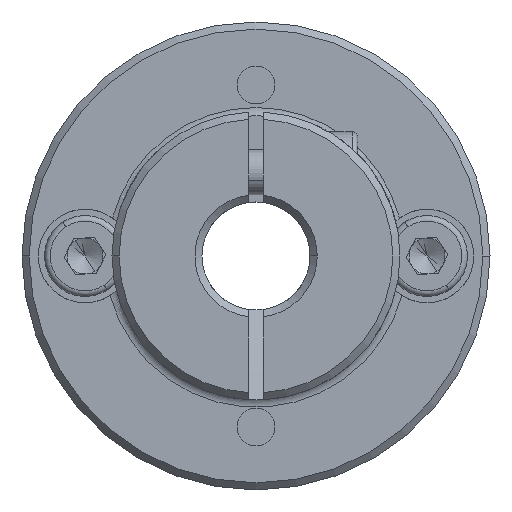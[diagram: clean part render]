
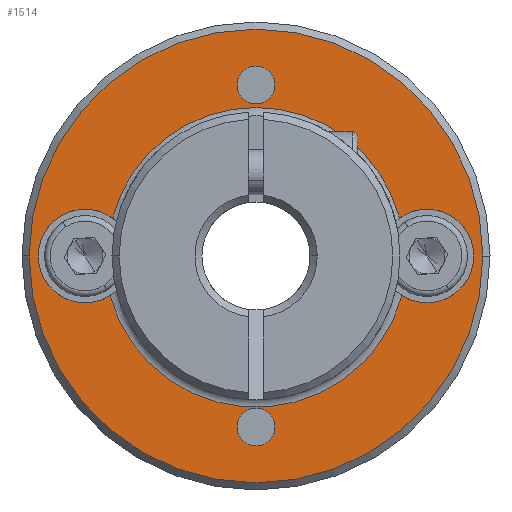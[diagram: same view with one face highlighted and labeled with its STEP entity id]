
A CAD part, front view. The second image highlights one B-rep face of the part: STEP entity #1514.
In plain terms, the highlighted planar face has unit normal (0, -1, 0).
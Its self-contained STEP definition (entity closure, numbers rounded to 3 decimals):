
#164 = ORIENTED_EDGE ( 'NONE', *, *, #2819, .T. ) ;
#249 = CARTESIAN_POINT ( 'NONE',  ( 4.944, -8.355, 28.105 ) ) ;
#271 = EDGE_CURVE ( 'NONE', #9428, #3634, #14770, .T. ) ;
#643 = CARTESIAN_POINT ( 'NONE',  ( -1.98, -8.355, 35.5 ) ) ;
#738 = CARTESIAN_POINT ( 'NONE',  ( -11.004, -8.355, 28.105 ) ) ;
#848 = CIRCLE ( 'NONE', #3548, 1.05 ) ;
#890 = PLANE ( 'NONE',  #14935 ) ;
#1066 = EDGE_CURVE ( 'NONE', #6877, #16805, #16623, .T. ) ;
#1163 = ORIENTED_EDGE ( 'NONE', *, *, #2679, .T. ) ;
#1514 = ADVANCED_FACE ( 'NONE', ( #4152, #16344, #8337, #8800 ), #890, .T. ) ;
#1959 = CIRCLE ( 'NONE', #18008, 2.6 ) ;
#2061 = VERTEX_POINT ( 'NONE', #11788 ) ;
#2112 = CARTESIAN_POINT ( 'NONE',  ( -15.63, -8.355, 26. ) ) ;
#2140 = DIRECTION ( 'NONE',  ( 0., -1., 0. ) ) ;
#2145 = DIRECTION ( 'NONE',  ( 0., -1., 0. ) ) ;
#2208 = EDGE_CURVE ( 'NONE', #3634, #14958, #16825, .T. ) ;
#2249 = DIRECTION ( 'NONE',  ( 0., 1., 0. ) ) ;
#2270 = CIRCLE ( 'NONE', #16720, 1.05 ) ;
#2679 = EDGE_CURVE ( 'NONE', #8132, #10151, #13047, .T. ) ;
#2819 = EDGE_CURVE ( 'NONE', #16805, #6877, #2270, .T. ) ;
#2860 = EDGE_CURVE ( 'NONE', #14958, #14154, #14003, .T. ) ;
#3179 = AXIS2_PLACEMENT_3D ( 'NONE', #11077, #2249, #18613 ) ;
#3272 = VERTEX_POINT ( 'NONE', #4988 ) ;
#3501 = DIRECTION ( 'NONE',  ( 0., 1., 0. ) ) ;
#3533 = EDGE_CURVE ( 'NONE', #12225, #2061, #17248, .T. ) ;
#3540 = EDGE_CURVE ( 'NONE', #3272, #13268, #848, .T. ) ;
#3548 = AXIS2_PLACEMENT_3D ( 'NONE', #18755, #3501, #18692 ) ;
#3634 = VERTEX_POINT ( 'NONE', #8003 ) ;
#3635 = DIRECTION ( 'NONE',  ( 1., 0., 0. ) ) ;
#3701 = CARTESIAN_POINT ( 'NONE',  ( 6.47, -8.355, 26. ) ) ;
#3760 = ORIENTED_EDGE ( 'NONE', *, *, #2208, .T. ) ;
#3897 = DIRECTION ( 'NONE',  ( 1., 0., 0. ) ) ;
#3904 = CIRCLE ( 'NONE', #18199, 12.6 ) ;
#4152 = FACE_OUTER_BOUND ( 'NONE', #18725, .T. ) ;
#4644 = EDGE_CURVE ( 'NONE', #13268, #3272, #7541, .T. ) ;
#4879 = EDGE_CURVE ( 'NONE', #10151, #9428, #1959, .T. ) ;
#4988 = CARTESIAN_POINT ( 'NONE',  ( -4.08, -8.355, 35.5 ) ) ;
#5203 = DIRECTION ( 'NONE',  ( 1., 0., 0. ) ) ;
#5572 = ORIENTED_EDGE ( 'NONE', *, *, #4879, .T. ) ;
#5827 = ORIENTED_EDGE ( 'NONE', *, *, #2860, .T. ) ;
#6228 = CARTESIAN_POINT ( 'NONE',  ( -3.03, -8.355, 26. ) ) ;
#6500 = DIRECTION ( 'NONE',  ( 0., 1., 0. ) ) ;
#6732 = AXIS2_PLACEMENT_3D ( 'NONE', #18950, #9960, #11490 ) ;
#6738 = ORIENTED_EDGE ( 'NONE', *, *, #3540, .T. ) ;
#6877 = VERTEX_POINT ( 'NONE', #18522 ) ;
#7020 = ORIENTED_EDGE ( 'NONE', *, *, #4644, .T. ) ;
#7541 = CIRCLE ( 'NONE', #3179, 1.05 ) ;
#7954 = CARTESIAN_POINT ( 'NONE',  ( -11.138, -8.355, 23.804 ) ) ;
#8003 = CARTESIAN_POINT ( 'NONE',  ( 5.078, -8.355, 23.804 ) ) ;
#8067 = CARTESIAN_POINT ( 'NONE',  ( -3.03, -8.355, 26. ) ) ;
#8132 = VERTEX_POINT ( 'NONE', #738 ) ;
#8187 = DIRECTION ( 'NONE',  ( 1., 0., 0. ) ) ;
#8337 = FACE_BOUND ( 'NONE', #9895, .T. ) ;
#8622 = AXIS2_PLACEMENT_3D ( 'NONE', #9529, #6500, #18379 ) ;
#8765 = AXIS2_PLACEMENT_3D ( 'NONE', #10379, #14862, #11853 ) ;
#8800 = FACE_BOUND ( 'NONE', #13846, .T. ) ;
#9428 = VERTEX_POINT ( 'NONE', #10712 ) ;
#9432 = DIRECTION ( 'NONE',  ( 1., 0., 0. ) ) ;
#9529 = CARTESIAN_POINT ( 'NONE',  ( -3.03, -8.355, 16.5 ) ) ;
#9657 = DIRECTION ( 'NONE',  ( 0., 1., 0. ) ) ;
#9823 = CARTESIAN_POINT ( 'NONE',  ( -15.13, -8.355, 26. ) ) ;
#9895 = EDGE_LOOP ( 'NONE', ( #6738, #7020 ) ) ;
#9901 = DIRECTION ( 'NONE',  ( 0., 1., 0. ) ) ;
#9960 = DIRECTION ( 'NONE',  ( 0., 1., 0. ) ) ;
#10112 = ORIENTED_EDGE ( 'NONE', *, *, #271, .T. ) ;
#10151 = VERTEX_POINT ( 'NONE', #249 ) ;
#10379 = CARTESIAN_POINT ( 'NONE',  ( -3.03, -8.355, 26. ) ) ;
#10420 = ORIENTED_EDGE ( 'NONE', *, *, #1066, .T. ) ;
#10712 = CARTESIAN_POINT ( 'NONE',  ( 9.07, -8.355, 26. ) ) ;
#10964 = CARTESIAN_POINT ( 'NONE',  ( -12.53, -8.355, 26. ) ) ;
#11077 = CARTESIAN_POINT ( 'NONE',  ( -3.03, -8.355, 35.5 ) ) ;
#11095 = DIRECTION ( 'NONE',  ( 1., 0., 0. ) ) ;
#11224 = DIRECTION ( 'NONE',  ( 0., 1., 0. ) ) ;
#11360 = CARTESIAN_POINT ( 'NONE',  ( -12.53, -8.355, 26. ) ) ;
#11490 = DIRECTION ( 'NONE',  ( 1., 0., 0. ) ) ;
#11694 = EDGE_CURVE ( 'NONE', #2061, #12225, #3904, .T. ) ;
#11755 = ORIENTED_EDGE ( 'NONE', *, *, #11694, .T. ) ;
#11788 = CARTESIAN_POINT ( 'NONE',  ( 9.57, -8.355, 26. ) ) ;
#11841 = AXIS2_PLACEMENT_3D ( 'NONE', #8067, #2145, #15568 ) ;
#11853 = DIRECTION ( 'NONE',  ( 1., 0., 0. ) ) ;
#12225 = VERTEX_POINT ( 'NONE', #2112 ) ;
#12351 = DIRECTION ( 'NONE',  ( 0., 1., 0. ) ) ;
#12400 = DIRECTION ( 'NONE',  ( 0., -1., 0. ) ) ;
#13047 = CIRCLE ( 'NONE', #13970, 8.247 ) ;
#13268 = VERTEX_POINT ( 'NONE', #643 ) ;
#13846 = EDGE_LOOP ( 'NONE', ( #5827, #15210, #1163, #5572, #10112, #3760 ) ) ;
#13970 = AXIS2_PLACEMENT_3D ( 'NONE', #6228, #12351, #18181 ) ;
#14002 = DIRECTION ( 'NONE',  ( 0., 1., 0. ) ) ;
#14003 = CIRCLE ( 'NONE', #18966, 2.6 ) ;
#14154 = VERTEX_POINT ( 'NONE', #9823 ) ;
#14770 = CIRCLE ( 'NONE', #6732, 2.6 ) ;
#14799 = AXIS2_PLACEMENT_3D ( 'NONE', #11360, #9901, #3897 ) ;
#14862 = DIRECTION ( 'NONE',  ( 0., 1., 0. ) ) ;
#14935 = AXIS2_PLACEMENT_3D ( 'NONE', #18353, #12400, #9432 ) ;
#14958 = VERTEX_POINT ( 'NONE', #7954 ) ;
#15210 = ORIENTED_EDGE ( 'NONE', *, *, #17882, .T. ) ;
#15568 = DIRECTION ( 'NONE',  ( 1., 0., 0. ) ) ;
#15676 = CARTESIAN_POINT ( 'NONE',  ( -4.08, -8.355, 16.5 ) ) ;
#16196 = ORIENTED_EDGE ( 'NONE', *, *, #3533, .T. ) ;
#16344 = FACE_BOUND ( 'NONE', #16356, .T. ) ;
#16356 = EDGE_LOOP ( 'NONE', ( #164, #10420 ) ) ;
#16623 = CIRCLE ( 'NONE', #8622, 1.05 ) ;
#16720 = AXIS2_PLACEMENT_3D ( 'NONE', #18507, #11224, #11095 ) ;
#16805 = VERTEX_POINT ( 'NONE', #15676 ) ;
#16825 = CIRCLE ( 'NONE', #8765, 8.4 ) ;
#17039 = CIRCLE ( 'NONE', #14799, 2.6 ) ;
#17193 = CARTESIAN_POINT ( 'NONE',  ( -3.03, -8.355, 26. ) ) ;
#17248 = CIRCLE ( 'NONE', #11841, 12.6 ) ;
#17882 = EDGE_CURVE ( 'NONE', #14154, #8132, #17039, .T. ) ;
#18008 = AXIS2_PLACEMENT_3D ( 'NONE', #3701, #14002, #3635 ) ;
#18181 = DIRECTION ( 'NONE',  ( 1., 0., 0. ) ) ;
#18199 = AXIS2_PLACEMENT_3D ( 'NONE', #17193, #2140, #8187 ) ;
#18353 = CARTESIAN_POINT ( 'NONE',  ( -3.03, -8.355, 26. ) ) ;
#18379 = DIRECTION ( 'NONE',  ( 1., 0., 0. ) ) ;
#18507 = CARTESIAN_POINT ( 'NONE',  ( -3.03, -8.355, 16.5 ) ) ;
#18522 = CARTESIAN_POINT ( 'NONE',  ( -1.98, -8.355, 16.5 ) ) ;
#18613 = DIRECTION ( 'NONE',  ( 1., 0., 0. ) ) ;
#18692 = DIRECTION ( 'NONE',  ( 1., 0., 0. ) ) ;
#18725 = EDGE_LOOP ( 'NONE', ( #16196, #11755 ) ) ;
#18755 = CARTESIAN_POINT ( 'NONE',  ( -3.03, -8.355, 35.5 ) ) ;
#18950 = CARTESIAN_POINT ( 'NONE',  ( 6.47, -8.355, 26. ) ) ;
#18966 = AXIS2_PLACEMENT_3D ( 'NONE', #10964, #9657, #5203 ) ;
